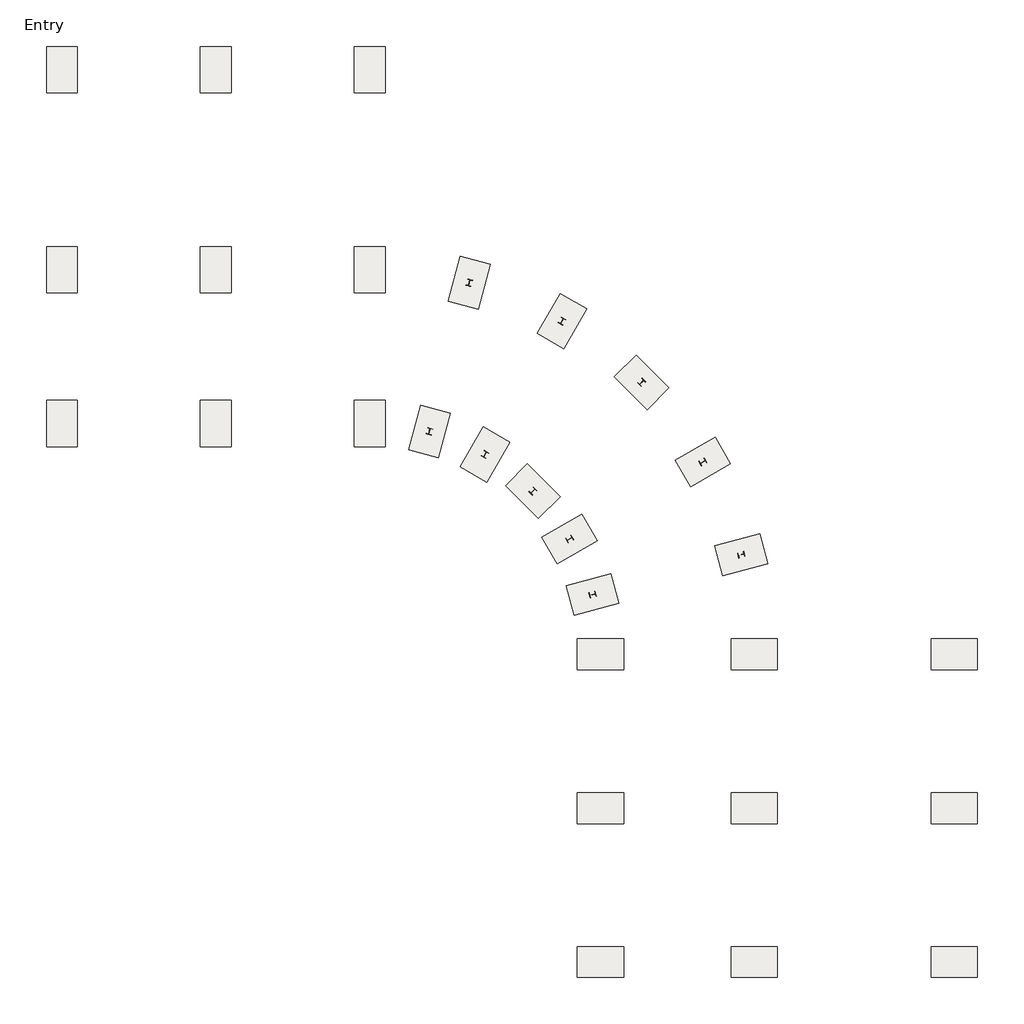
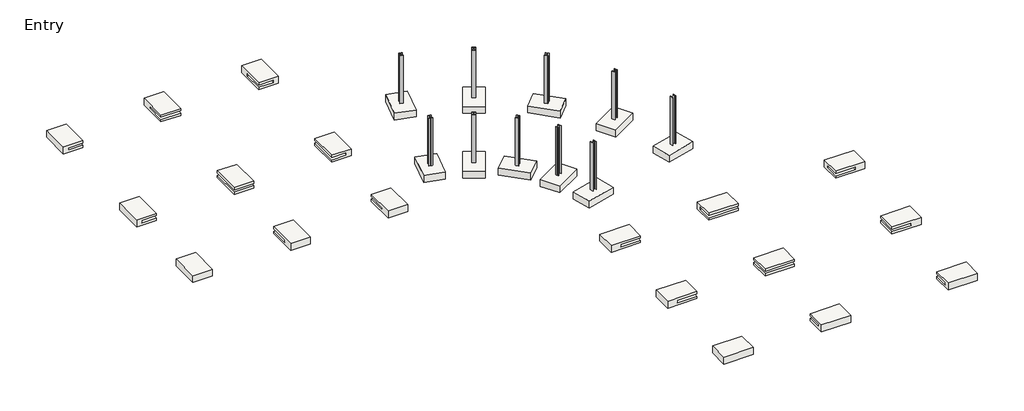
# One storey: 28 slabs, 10 columns.
"""IFC4 building model written with IfcOpenShell, lengths in millimetres."""

import ifcopenshell
import ifcopenshell.guid

model = None  # the IFC model being written
_history = None  # IfcOwnerHistory: only IFC2X3 demands one
_inside = {}  # id of a spatial element -> (the spatial element, [elements in it])
_under = {}  # id of a project, library or spatial element -> (it, [spatial elements below it])
_declared = {}  # id of a project -> (the project, [libraries it declares])
_typed = {}  # id of a type object -> (the type object, [elements of that type])
_made_of = {}  # id of a material, layer set ... -> (it, [elements and type objects made of it])


def new_model(schema):
    """Start an empty IFC model of exactly this schema.

    Asked for "IFC4X3", IfcOpenShell would pick the latest addendum, in which some entities
    have other attributes; the version numbers below select the first issue.
    IFC2X3 requires an IfcOwnerHistory on every rooted entity: one is made here for all.
    """
    global model, _history
    if schema == "IFC4X3":
        model = ifcopenshell.file(schema_version=(4, 3, 0, 0))
    else:
        model = ifcopenshell.file(schema=schema)
    _inside.clear()
    _under.clear()
    _declared.clear()
    _typed.clear()
    _made_of.clear()
    _history = None
    if model.schema == "IFC2X3":
        org = make("IfcOrganization", Name="unknown")
        user = make(
            "IfcPersonAndOrganization",
            ThePerson=make("IfcPerson", FamilyName="unknown"),
            TheOrganization=org,
        )
        app = make(
            "IfcApplication",
            ApplicationDeveloper=org,
            Version="unknown",
            ApplicationFullName="unknown",
            ApplicationIdentifier="unknown",
        )
        _history = make(
            "IfcOwnerHistory",
            OwningUser=user,
            OwningApplication=app,
            ChangeAction="ADDED",
            CreationDate=0,
        )
    return model


def make(cls, **values):
    """One entity of the class cls with the attributes given. An attribute that is None is left unset."""
    return model.create_entity(
        cls, **{name: value for name, value in values.items() if value is not None}
    )


def rooted(cls, **values):
    """An entity with a GlobalId (a new one), such as an element, a storey or a relation."""
    return make(cls, GlobalId=ifcopenshell.guid.new(), OwnerHistory=_history, **values)


def si_unit(unit_type, name, prefix=None):
    """IfcSIUnit, for example si_unit("LENGTHUNIT", "METRE", prefix="MILLI")."""
    return make("IfcSIUnit", UnitType=unit_type, Prefix=prefix, Name=name)


def assignment(units):
    """IfcUnitAssignment: the units of a project."""
    return None if units is None else make("IfcUnitAssignment", Units=units)


def point(xyz):
    """IfcCartesianPoint."""
    return None if xyz is None else make("IfcCartesianPoint", Coordinates=xyz)


def direction(xyz):
    """IfcDirection."""
    return None if xyz is None else make("IfcDirection", DirectionRatios=xyz)


def frame(location, z_axis=None, x_axis=None):
    """IfcAxis2Placement3D, a coordinate frame: its origin and axes. An axis left out is left unset."""
    return make(
        "IfcAxis2Placement3D",
        Location=point(location),
        Axis=direction(z_axis),
        RefDirection=direction(x_axis),
    )


def frame_2d(location, x_axis=None):
    """IfcAxis2Placement2D, a coordinate frame in the plane: its origin and x axis."""
    return make(
        "IfcAxis2Placement2D", Location=point(location), RefDirection=direction(x_axis)
    )


def origin():
    """The frame at (0, 0, 0) with its axes left unset."""
    return frame((0.0, 0.0, 0.0))


def origin_with_axes():
    """The frame at (0, 0, 0) with the z axis (0, 0, 1) and the x axis (1, 0, 0) written out."""
    return frame((0.0, 0.0, 0.0), z_axis=(0.0, 0.0, 1.0), x_axis=(1.0, 0.0, 0.0))


def place(relative_to, where):
    """IfcLocalPlacement: puts the frame where relative to a parent placement (None: the world)."""
    return make(
        "IfcLocalPlacement", PlacementRelTo=relative_to, RelativePlacement=where
    )


def context(
    kind, dimensions, precision=None, world=None, true_north=None, identifier=None
):
    """IfcGeometricRepresentationContext, for example the 3D "Model" context."""
    return make(
        "IfcGeometricRepresentationContext",
        ContextIdentifier=identifier,
        ContextType=kind,
        CoordinateSpaceDimension=dimensions,
        Precision=precision,
        WorldCoordinateSystem=world,
        TrueNorth=true_north,
    )


def project(units=None, contexts=None):
    """IfcProject with its units and contexts."""
    return rooted(
        "IfcProject",
        Name="project",
        RepresentationContexts=contexts,
        UnitsInContext=assignment(units),
    )


def spatial(cls, under=None, at=None, **own):
    """A site, building, storey or space (cls), placed at a placement, below another one or the project."""
    s = rooted(cls, ObjectPlacement=at, **own)
    if under is not None:
        _under.setdefault(under.id(), (under, []))[1].append(s)
    return s


def polyline(points):
    """IfcPolyline through the points."""
    return make("IfcPolyline", Points=[point(p) for p in points])


def circle_curve(where, radius):
    """IfcCircle in the frame where."""
    return make("IfcCircle", Position=where, Radius=radius)


def trimmed(basis, trim1, trim2, sense, master):
    """IfcTrimmedCurve: the piece of a basis curve between two trims."""
    return make(
        "IfcTrimmedCurve",
        BasisCurve=basis,
        Trim1=trim1,
        Trim2=trim2,
        SenseAgreement=sense,
        MasterRepresentation=master,
    )


def segment(curve, same_sense, transition):
    """IfcCompositeCurveSegment."""
    return make(
        "IfcCompositeCurveSegment",
        Transition=transition,
        SameSense=same_sense,
        ParentCurve=curve,
    )


def composite_curve(segments, self_intersect=None):
    """IfcCompositeCurve: segments joined end to end."""
    return make("IfcCompositeCurve", Segments=segments, SelfIntersect=self_intersect)


def outline(outer, holes=None, kind="AREA"):
    """IfcArbitraryClosedProfileDef: a profile drawn as a closed curve; with holes, ...WithVoids."""
    if holes is None:
        return make("IfcArbitraryClosedProfileDef", ProfileType=kind, OuterCurve=outer)
    return make(
        "IfcArbitraryProfileDefWithVoids",
        ProfileType=kind,
        OuterCurve=outer,
        InnerCurves=holes,
    )


def extrude(swept, where, along, depth):
    """IfcExtrudedAreaSolid: the profile swept, set in the frame where, extruded along a direction by depth."""
    return make(
        "IfcExtrudedAreaSolid",
        SweptArea=swept,
        Position=where,
        ExtrudedDirection=direction(along),
        Depth=depth,
    )


def faces_of(points, faces, orient=None, outer=None):
    """IfcFace entities. A face is a list of loops; a loop is a list of indices into points, from 0.

    orient and outer hold one flag for each loop. By default every Orientation is true, the
    first loop of a face is its IfcFaceOuterBound and the others are IfcFaceBound.
    """
    made = []
    for i, loops in enumerate(faces):
        bounds = []
        for j, loop in enumerate(loops):
            is_outer = j == 0 if outer is None else outer[i][j]
            bounds.append(
                make(
                    "IfcFaceOuterBound" if is_outer else "IfcFaceBound",
                    Bound=make("IfcPolyLoop", Polygon=[points[k] for k in loop]),
                    Orientation=True if orient is None else orient[i][j],
                )
            )
        made.append(make("IfcFace", Bounds=bounds))
    return made


def faceted_brep(points, faces, orient=None, outer=None, voids=None):
    """IfcFacetedBrep: a solid bounded by flat faces; with voids (closed shells), ...WithVoids."""
    shared = [point(p) for p in points]
    hull = make("IfcClosedShell", CfsFaces=faces_of(shared, faces, orient, outer))
    if voids is None:
        return make("IfcFacetedBrep", Outer=hull)
    return make(
        "IfcFacetedBrepWithVoids",
        Outer=hull,
        Voids=[
            make(cls, CfsFaces=faces_of(shared, fs, o, b)) for cls, fs, o, b in voids
        ],
    )


def shape(context_of_items, identifier, shape_type, items):
    """IfcShapeRepresentation: the items that make up one representation, for example the "Body"."""
    return make(
        "IfcShapeRepresentation",
        ContextOfItems=context_of_items,
        RepresentationIdentifier=identifier,
        RepresentationType=shape_type,
        Items=items,
    )


def source(mapping_origin, context_of_items, identifier, shape_type, items):
    """IfcRepresentationMap: a shape defined once, which mapped items show again and again."""
    return make(
        "IfcRepresentationMap",
        MappingOrigin=mapping_origin,
        MappedRepresentation=shape(context_of_items, identifier, shape_type, items),
    )


def transform(
    local_origin,
    x_axis=None,
    y_axis=None,
    z_axis=None,
    scale=None,
    scale2=None,
    scale3=None,
    uniform=True,
):
    """IfcCartesianTransformationOperator3D, or its non-uniform kind. x_axis, y_axis, z_axis: its Axis1, 2, 3."""
    if uniform:
        return make(
            "IfcCartesianTransformationOperator3D",
            Axis1=direction(x_axis),
            Axis2=direction(y_axis),
            LocalOrigin=point(local_origin),
            Scale=scale,
            Axis3=direction(z_axis),
        )
    return make(
        "IfcCartesianTransformationOperator3DnonUniform",
        Axis1=direction(x_axis),
        Axis2=direction(y_axis),
        LocalOrigin=point(local_origin),
        Scale=scale,
        Axis3=direction(z_axis),
        Scale2=scale2,
        Scale3=scale3,
    )


def mapped(mapping_source, mapping_target):
    """IfcMappedItem: shows the shape of a source again, moved by a transform."""
    return make(
        "IfcMappedItem", MappingSource=mapping_source, MappingTarget=mapping_target
    )


def made_of(thing, what):
    """Note that an element or type object is made of a material, layer set ...; save() writes the relation."""
    if what is not None:
        _made_of.setdefault(what.id(), (what, []))[1].append(thing)
    return thing


def element(
    cls,
    number,
    at=None,
    inside=None,
    cuts=None,
    type_object=None,
    material=None,
    context=None,
    identifier="Body",
    shape_type=None,
    held_by="IfcProductDefinitionShape",
    body=None,
    shapes=None,
    **own,
):
    """One element of the class cls, such as IfcWall. Its Tag is "e" and its number.

    at: its placement. inside: the storey or other place that contains it. cuts: it is an
    opening in that element (IfcRelVoidsElement). A single representation is given by context,
    identifier, shape_type and body (its items); several are given by shapes. held_by: the class
    of the entity that holds the representations. save() writes the other relations.
    """
    e = rooted(cls, Tag="e%d" % number, ObjectPlacement=at, **own)
    if body is not None:
        shapes = [shape(context, identifier, shape_type, body)]
    if shapes is not None:
        e.Representation = make(held_by, Representations=shapes)
    if inside is not None:
        _inside.setdefault(inside.id(), (inside, []))[1].append(e)
    if cuts is not None:
        rooted(
            "IfcRelVoidsElement", RelatingBuildingElement=cuts, RelatedOpeningElement=e
        )
    if type_object is not None:
        _typed.setdefault(type_object.id(), (type_object, []))[1].append(e)
    return made_of(e, material)


def aggregate(whole, parts):
    """IfcRelAggregates: a whole, such as a stair, and the parts it consists of."""
    return rooted("IfcRelAggregates", RelatingObject=whole, RelatedObjects=parts)


def save(model, path):
    """Write the relations noted so far, then the file.

    IfcRelAggregates (storeys below a building ...), IfcRelContainedInSpatialStructure (elements
    in a storey), IfcRelDefinesByType, IfcRelAssociatesMaterial and IfcRelDeclares: one each for
    every whole, place, type object, material and project.
    """
    for whole, parts in _under.values():
        aggregate(whole, parts)
    for where, things in _inside.values():
        rooted(
            "IfcRelContainedInSpatialStructure",
            RelatedElements=things,
            RelatingStructure=where,
        )
    for kind, things in _typed.values():
        rooted("IfcRelDefinesByType", RelatedObjects=things, RelatingType=kind)
    for what, things in _made_of.values():
        rooted("IfcRelAssociatesMaterial", RelatedObjects=things, RelatingMaterial=what)
    for by, libraries in _declared.values():
        rooted("IfcRelDeclares", RelatingContext=by, RelatedDefinitions=libraries)
    model.write(path)


def w_shapes_column_w10x33_aadc5645(model_context):
    return source(origin(), model_context, "Body", "SweptSolid", [
        extrude(outline(composite_curve([segment(polyline([(101.092, 123.571), (101.092, 112.522), (16.383, 112.522)]), True, "CONTINUOUS"), segment(trimmed(circle_curve(frame_2d((16.383, 99.822)), 12.7), [point((16.383, 112.522))], [point((3.683, 99.822))], True, "CARTESIAN"), True, "CONTINUOUS"), segment(polyline([(3.683, 99.822), (3.683, -99.822)]), True, "CONTINUOUS"), segment(trimmed(circle_curve(frame_2d((16.383, -99.822)), 12.7), [point((3.683, -99.822))], [point((16.383, -112.522))], True, "CARTESIAN"), True, "CONTINUOUS"), segment(polyline([(16.383, -112.522), (101.092, -112.522), (101.092, -123.571), (-101.092, -123.571), (-101.092, -112.522), (-16.383, -112.522)]), True, "CONTINUOUS"), segment(trimmed(circle_curve(frame_2d((-16.383, -99.822)), 12.7), [point((-16.383, -112.522))], [point((-3.683, -99.822))], True, "CARTESIAN"), True, "CONTINUOUS"), segment(polyline([(-3.683, -99.822), (-3.683, 99.822)]), True, "CONTINUOUS"), segment(trimmed(circle_curve(frame_2d((-16.383, 99.822)), 12.7), [point((-3.683, 99.822))], [point((-16.383, 112.522))], True, "CARTESIAN"), True, "CONTINUOUS"), segment(polyline([(-16.383, 112.522), (-101.092, 112.522), (-101.092, 123.571), (101.092, 123.571)]), True, "CONTINUOUS")], self_intersect=False)), origin_with_axes(), (0.0, 0.0, 1.0), 3175.0),
    ])


def slab_5ba74754(model_context):
    return source(origin(), model_context, "Body", "SweptSolid", [
        extrude(outline(polyline([(609.6, 914.4), (609.6, -914.4), (-609.6, -914.4), (-609.6, 914.4), (609.6, 914.4)])), frame((0.0, 0.0, -457.2), z_axis=(0.0, 0.0, 1.0), x_axis=(1.0, 0.0, 0.0)), (0.0, 0.0, 1.0), 457.2),
    ])


model = new_model("IFC4")

# Units and contexts
model_context = context("Model", 3, world=origin())
ifc_project = project(units=[si_unit("LENGTHUNIT", "METRE", prefix="MILLI")], contexts=[model_context])

# Site, building, storey
site = spatial("IfcSite", under=ifc_project)
building = spatial("IfcBuilding", under=site)
storey = spatial("IfcBuildingStorey", under=building, Name="Entry", Elevation=0.0)

# Columns
placement = place(None, origin())
w_shapes_column_w10x33_shape = w_shapes_column_w10x33_aadc5645(model_context)
element("IfcColumn", 1, ObjectType="W Shapes-Column : W10X33", at=placement, inside=storey, context=model_context, shape_type="MappedRepresentation", body=[
    mapped(w_shapes_column_w10x33_shape, transform((-19803.9566554, -8923.9137739, 0.0), x_axis=(-0.2588190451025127, 0.9659258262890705, 0.0), y_axis=(-0.9659258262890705, -0.2588190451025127, 0.0), z_axis=(0.0, 0.0, 1.0))),
])
element("IfcColumn", 2, ObjectType="W Shapes-Column : W10X33", at=placement, inside=storey, context=model_context, shape_type="MappedRepresentation", body=[
    mapped(w_shapes_column_w10x33_shape, transform((-13915.6728183, -7346.1528749, 0.0), x_axis=(-0.2588190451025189, 0.9659258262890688, 0.0), y_axis=(-0.9659258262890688, -0.2588190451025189, 0.0), z_axis=(0.0, 0.0, 1.0))),
])
element("IfcColumn", 3, ObjectType="W Shapes-Column : W10X33", at=placement, inside=storey, context=model_context, shape_type="MappedRepresentation", body=[
    mapped(w_shapes_column_w10x33_shape, transform((-20717.4461188, -6718.5551223, 0.0), x_axis=(-0.4999999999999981, 0.8660254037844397, 0.0), y_axis=(-0.8660254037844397, -0.4999999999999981, 0.0), z_axis=(0.0, 0.0, 1.0))),
])
element("IfcColumn", 4, ObjectType="W Shapes-Column : W10X33", at=placement, inside=storey, context=model_context, shape_type="MappedRepresentation", body=[
    mapped(w_shapes_column_w10x33_shape, transform((-15438.1552573, -3670.5551223, 0.0), x_axis=(-0.4999999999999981, 0.8660254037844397, 0.0), y_axis=(-0.8660254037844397, -0.4999999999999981, 0.0), z_axis=(0.0, 0.0, 1.0))),
])
element("IfcColumn", 5, ObjectType="W Shapes-Column : W10X33", at=placement, inside=storey, context=model_context, shape_type="MappedRepresentation", body=[
    mapped(w_shapes_column_w10x33_shape, transform((-22170.5980038, -4824.7707151, 0.0), x_axis=(0.7071067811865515, -0.7071067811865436, 0.0), y_axis=(0.7071067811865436, 0.7071067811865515, 0.0), z_axis=(0.0, 0.0, 1.0))),
])
element("IfcColumn", 6, ObjectType="W Shapes-Column : W10X33", at=placement, inside=storey, context=model_context, shape_type="MappedRepresentation", body=[
    mapped(w_shapes_column_w10x33_shape, transform((-17860.0750657, -514.247777, 0.0), x_axis=(0.7071067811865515, -0.7071067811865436, 0.0), y_axis=(0.7071067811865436, 0.7071067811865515, 0.0), z_axis=(0.0, 0.0, 1.0))),
])
element("IfcColumn", 7, ObjectType="W Shapes-Column : W10X33", at=placement, inside=storey, context=model_context, shape_type="MappedRepresentation", body=[
    mapped(w_shapes_column_w10x33_shape, transform((-24064.382411, -3371.6188301, 0.0), x_axis=(0.8660254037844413, -0.49999999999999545, 0.0), y_axis=(0.49999999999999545, 0.8660254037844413, 0.0), z_axis=(0.0, 0.0, 1.0))),
])
element("IfcColumn", 8, ObjectType="W Shapes-Column : W10X33", at=placement, inside=storey, context=model_context, shape_type="MappedRepresentation", body=[
    mapped(w_shapes_column_w10x33_shape, transform((-21016.382411, 1907.6720314, 0.0), x_axis=(0.8660254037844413, -0.49999999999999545, 0.0), y_axis=(0.49999999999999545, 0.8660254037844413, 0.0), z_axis=(0.0, 0.0, 1.0))),
])
element("IfcColumn", 9, ObjectType="W Shapes-Column : W10X33", at=placement, inside=storey, context=model_context, shape_type="MappedRepresentation", body=[
    mapped(w_shapes_column_w10x33_shape, transform((-26269.7410626, -2458.1293667, 0.0), x_axis=(0.9659258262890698, -0.25881904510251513, 0.0), y_axis=(0.25881904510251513, 0.9659258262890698, 0.0), z_axis=(0.0, 0.0, 1.0))),
])
element("IfcColumn", 10, ObjectType="W Shapes-Column : W10X33", at=placement, inside=storey, context=model_context, shape_type="MappedRepresentation", body=[
    mapped(w_shapes_column_w10x33_shape, transform((-24691.9801636, 3430.1544704, 0.0), x_axis=(0.9659258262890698, -0.25881904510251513, 0.0), y_axis=(0.25881904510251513, 0.9659258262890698, 0.0), z_axis=(0.0, 0.0, 1.0))),
])

# Slabs
element("IfcSlab", 11, ObjectType="Footing-Rectangular : 72\" x 48\" x 18\"", at=placement, inside=storey, context=model_context, shape_type="Brep", body=[
    faceted_brep([(-29245.982411, 10959.8448777, -1676.4), (-28026.782411, 10959.8448777, -1676.4), (-28026.782411, 12788.6448777, -1676.4), (-29245.982411, 12788.6448777, -1676.4), (-29245.982411, 10959.8448777, -2133.6), (-29245.982411, 12788.6448777, -2133.6), (-28026.782411, 12788.6448777, -2133.6), (-28026.782411, 10959.8448777, -2133.6), (-29245.982411, 10959.8448777, -1828.8), (-28331.582411, 10959.8448777, -1828.8), (-28331.582411, 10959.8448777, -1981.2), (-29245.982411, 10959.8448777, -1981.2), (-29245.982411, 12179.0448777, -1981.2), (-29245.982411, 12179.0448777, -1828.8), (-28331.582411, 12179.0448777, -1981.2), (-28331.582411, 12179.0448777, -1828.8)], [[[0, 1, 2, 3]], [[4, 5, 6, 7]], [[1, 0, 8, 9, 10, 11, 4, 7]], [[2, 1, 7, 6]], [[3, 2, 6, 5]], [[0, 3, 5, 4, 11, 12, 13, 8]], [[14, 12, 11, 10]], [[15, 9, 8, 13]], [[15, 14, 10, 9]], [[14, 15, 13, 12]]]),
])
element("IfcSlab", 12, ObjectType="Footing-Rectangular : 72\" x 48\" x 18\"", at=placement, inside=storey, context=model_context, shape_type="SweptSolid", body=[
    extrude(outline(polyline([(10959.8448777, -1676.4), (12788.6448777, -1676.4), (12788.6448777, -2133.6), (10959.8448777, -2133.6), (10959.8448777, -1981.2), (12179.0448777, -1981.2), (12179.0448777, -1828.8), (10959.8448777, -1828.8), (10959.8448777, -1676.4)])), frame((-35341.982411, 0.0, 0.0), z_axis=(1.0, 0.0, 0.0), x_axis=(0.0, 1.0, 0.0)), (0.0, 0.0, 1.0), 1219.2),
])
element("IfcSlab", 13, ObjectType="Footing-Rectangular : 72\" x 48\" x 18\"", at=placement, inside=storey, context=model_context, shape_type="Brep", body=[
    faceted_brep([(-41437.982411, 10959.8448777, -1676.4), (-40218.782411, 10959.8448777, -1676.4), (-40218.782411, 12788.6448777, -1676.4), (-41437.982411, 12788.6448777, -1676.4), (-41437.982411, 10959.8448777, -2133.6), (-41437.982411, 12788.6448777, -2133.6), (-40218.782411, 12788.6448777, -2133.6), (-40218.782411, 10959.8448777, -2133.6), (-40218.782411, 10959.8448777, -1981.2), (-41133.182411, 10959.8448777, -1981.2), (-41133.182411, 10959.8448777, -1828.8), (-40218.782411, 10959.8448777, -1828.8), (-40218.782411, 12179.0448777, -1828.8), (-40218.782411, 12179.0448777, -1981.2), (-41133.182411, 12179.0448777, -1981.2), (-41133.182411, 12179.0448777, -1828.8)], [[[0, 1, 2, 3]], [[4, 5, 6, 7]], [[1, 0, 4, 7, 8, 9, 10, 11]], [[2, 1, 11, 12, 13, 8, 7, 6]], [[3, 2, 6, 5]], [[0, 3, 5, 4]], [[13, 14, 9, 8]], [[10, 15, 12, 11]], [[14, 15, 10, 9]], [[15, 14, 13, 12]]]),
])
element("IfcSlab", 14, ObjectType="Footing-Rectangular : 72\" x 48\" x 18\"", at=placement, inside=storey, context=model_context, shape_type="Brep", body=[
    faceted_brep([(-28026.782411, -1232.1551223, -1676.4), (-29245.982411, -1232.1551223, -1676.4), (-29245.982411, -3060.9551223, -1676.4), (-28026.782411, -3060.9551223, -1676.4), (-28026.782411, -1232.1551223, -2133.6), (-28026.782411, -3060.9551223, -2133.6), (-29245.982411, -3060.9551223, -2133.6), (-29245.982411, -1232.1551223, -2133.6), (-29245.982411, -1232.1551223, -1981.2), (-28331.582411, -1232.1551223, -1981.2), (-28331.582411, -1232.1551223, -1828.8), (-29245.982411, -1232.1551223, -1828.8), (-29245.982411, -2451.3551223, -1828.8), (-29245.982411, -2451.3551223, -1981.2), (-28331.582411, -2451.3551223, -1981.2), (-28331.582411, -2451.3551223, -1828.8)], [[[0, 1, 2, 3]], [[4, 5, 6, 7]], [[1, 0, 4, 7, 8, 9, 10, 11]], [[2, 1, 11, 12, 13, 8, 7, 6]], [[3, 2, 6, 5]], [[0, 3, 5, 4]], [[13, 14, 9, 8]], [[10, 15, 12, 11]], [[14, 15, 10, 9]], [[15, 14, 13, 12]]]),
])
element("IfcSlab", 15, ObjectType="Footing-Rectangular : 72\" x 48\" x 18\"", at=placement, inside=storey, context=model_context, shape_type="SweptSolid", body=[
    extrude(outline(polyline([(-1676.4, -28026.782411), (-1676.4, -29245.982411), (-1828.8, -29245.982411), (-1828.8, -28331.582411), (-1981.2, -28331.582411), (-1981.2, -29245.982411), (-2133.6, -29245.982411), (-2133.6, -28026.782411), (-1676.4, -28026.782411)])), frame((0.0, 3035.0448777, 0.0), z_axis=(0.0, 1.0, 0.0), x_axis=(0.0, 0.0, 1.0)), (0.0, 0.0, 1.0), 1828.8),
])
element("IfcSlab", 16, ObjectType="Footing-Rectangular : 72\" x 48\" x 18\"", at=placement, inside=storey, context=model_context, shape_type="SweptSolid", body=[
    extrude(outline(polyline([(-3060.9551223, -1676.4), (-1232.1551223, -1676.4), (-1232.1551223, -1828.8), (-2451.3551223, -1828.8), (-2451.3551223, -1981.2), (-1232.1551223, -1981.2), (-1232.1551223, -2133.6), (-3060.9551223, -2133.6), (-3060.9551223, -1676.4)])), frame((-35341.982411, 0.0, 0.0), z_axis=(1.0, 0.0, 0.0), x_axis=(0.0, 1.0, 0.0)), (0.0, 0.0, 1.0), 1219.2),
])
element("IfcSlab", 17, ObjectType="Footing-Rectangular : 72\" x 48\" x 18\"", at=placement, inside=storey, context=model_context, shape_type="Brep", body=[
    faceted_brep([(-41437.982411, -3060.9551223, -1676.4), (-40218.782411, -3060.9551223, -1676.4), (-40218.782411, -1232.1551223, -1676.4), (-41437.982411, -1232.1551223, -1676.4), (-41437.982411, -3060.9551223, -2133.6), (-41437.982411, -1232.1551223, -2133.6), (-40218.782411, -1232.1551223, -2133.6), (-40218.782411, -3060.9551223, -2133.6), (-40218.782411, -1232.1551223, -1981.2), (-40218.782411, -2451.3551223, -1981.2), (-40218.782411, -2451.3551223, -1828.8), (-40218.782411, -1232.1551223, -1828.8), (-41133.182411, -1232.1551223, -1828.8), (-41133.182411, -1232.1551223, -1981.2), (-41133.182411, -2451.3551223, -1981.2), (-41133.182411, -2451.3551223, -1828.8)], [[[0, 1, 2, 3]], [[4, 5, 6, 7]], [[1, 0, 4, 7]], [[2, 1, 7, 6, 8, 9, 10, 11]], [[3, 2, 11, 12, 13, 8, 6, 5]], [[0, 3, 5, 4]], [[13, 14, 9, 8]], [[10, 15, 12, 11]], [[14, 15, 10, 9]], [[15, 14, 13, 12]]]),
])
element("IfcSlab", 18, ObjectType="Footing-Rectangular : 72\" x 48\" x 18\"", at=placement, inside=storey, context=model_context, shape_type="SweptSolid", body=[
    extrude(outline(polyline([(-34122.782411, 3035.0448777), (-35341.982411, 3035.0448777), (-35341.982411, 4863.8448777), (-34122.782411, 4863.8448777), (-34122.782411, 3035.0448777)])), frame((0.0, 0.0, -1828.8), z_axis=(0.0, 0.0, 1.0), x_axis=(1.0, 0.0, 0.0)), (0.0, 0.0, 1.0), 152.4),
    extrude(outline(polyline([(-35341.982411, 3035.0448777), (-35341.982411, 4863.8448777), (-34122.782411, 4863.8448777), (-34122.782411, 3035.0448777), (-35341.982411, 3035.0448777)])), frame((0.0, 0.0, -2133.6), z_axis=(0.0, 0.0, 1.0), x_axis=(1.0, 0.0, 0.0)), (0.0, 0.0, 1.0), 152.4),
])
element("IfcSlab", 19, ObjectType="Footing-Rectangular : 72\" x 48\" x 18\"", at=placement, inside=storey, context=model_context, shape_type="SweptSolid", body=[
    extrude(outline(polyline([(-1676.4, -40218.782411), (-1676.4, -41437.982411), (-2133.6, -41437.982411), (-2133.6, -40218.782411), (-1981.2, -40218.782411), (-1981.2, -41133.182411), (-1828.8, -41133.182411), (-1828.8, -40218.782411), (-1676.4, -40218.782411)])), frame((0.0, 3035.0448777, 0.0), z_axis=(0.0, 1.0, 0.0), x_axis=(0.0, 0.0, 1.0)), (0.0, 0.0, 1.0), 1828.8),
])
element("IfcSlab", 20, ObjectType="Footing-Rectangular : 72\" x 48\" x 18\"", at=placement, inside=storey, context=model_context, shape_type="Brep", body=[
    faceted_brep([(-6385.982411, -10680.9551223, -1676.4), (-6385.982411, -11900.1551223, -1676.4), (-4557.182411, -11900.1551223, -1676.4), (-4557.182411, -10680.9551223, -1676.4), (-4557.182411, -11900.1551223, -2133.6), (-6385.982411, -11900.1551223, -2133.6), (-6385.982411, -10680.9551223, -2133.6), (-4557.182411, -10680.9551223, -2133.6), (-6385.982411, -11900.1551223, -1981.2), (-6385.982411, -10985.7551223, -1981.2), (-6385.982411, -10985.7551223, -1828.8), (-6385.982411, -11900.1551223, -1828.8), (-5166.782411, -11900.1551223, -1828.8), (-5166.782411, -11900.1551223, -1981.2), (-5166.782411, -10985.7551223, -1981.2), (-5166.782411, -10985.7551223, -1828.8)], [[[0, 1, 2, 3]], [[4, 5, 6, 7]], [[1, 0, 6, 5, 8, 9, 10, 11]], [[0, 3, 7, 6]], [[3, 2, 4, 7]], [[2, 1, 11, 12, 13, 8, 5, 4]], [[14, 9, 8, 13]], [[15, 12, 11, 10]], [[14, 15, 10, 9]], [[15, 14, 13, 12]]]),
])
element("IfcSlab", 21, ObjectType="Footing-Rectangular : 72\" x 48\" x 18\"", at=placement, inside=storey, context=model_context, shape_type="SweptSolid", body=[
    extrude(outline(polyline([(-1676.4, -4557.182411), (-1676.4, -6385.982411), (-1828.8, -6385.982411), (-1828.8, -5166.782411), (-1981.2, -5166.782411), (-1981.2, -6385.982411), (-2133.6, -6385.982411), (-2133.6, -4557.182411), (-1676.4, -4557.182411)])), frame((0.0, -17996.1551223, 0.0), z_axis=(0.0, 1.0, 0.0), x_axis=(0.0, 0.0, 1.0)), (0.0, 0.0, 1.0), 1219.2),
])
element("IfcSlab", 22, ObjectType="Footing-Rectangular : 72\" x 48\" x 18\"", at=placement, inside=storey, context=model_context, shape_type="Brep", body=[
    faceted_brep([(-6385.982411, -22872.9551223, -1676.4), (-6385.982411, -24092.1551223, -1676.4), (-4557.182411, -24092.1551223, -1676.4), (-4557.182411, -22872.9551223, -1676.4), (-4557.182411, -24092.1551223, -2133.6), (-6385.982411, -24092.1551223, -2133.6), (-6385.982411, -22872.9551223, -2133.6), (-4557.182411, -22872.9551223, -2133.6), (-6385.982411, -22872.9551223, -1828.8), (-6385.982411, -23787.3551223, -1828.8), (-6385.982411, -23787.3551223, -1981.2), (-6385.982411, -22872.9551223, -1981.2), (-5166.782411, -22872.9551223, -1981.2), (-5166.782411, -22872.9551223, -1828.8), (-5166.782411, -23787.3551223, -1981.2), (-5166.782411, -23787.3551223, -1828.8)], [[[0, 1, 2, 3]], [[4, 5, 6, 7]], [[1, 0, 8, 9, 10, 11, 6, 5]], [[0, 3, 7, 6, 11, 12, 13, 8]], [[3, 2, 4, 7]], [[2, 1, 5, 4]], [[10, 14, 12, 11]], [[13, 15, 9, 8]], [[15, 14, 10, 9]], [[14, 15, 13, 12]]]),
])
element("IfcSlab", 23, ObjectType="Footing-Rectangular : 72\" x 48\" x 18\"", at=placement, inside=storey, context=model_context, shape_type="Brep", body=[
    faceted_brep([(-18577.982411, -11900.1551223, -1676.4), (-18577.982411, -10680.9551223, -1676.4), (-20406.782411, -10680.9551223, -1676.4), (-20406.782411, -11900.1551223, -1676.4), (-20406.782411, -10680.9551223, -2133.6), (-18577.982411, -10680.9551223, -2133.6), (-18577.982411, -11900.1551223, -2133.6), (-20406.782411, -11900.1551223, -2133.6), (-18577.982411, -11900.1551223, -1828.8), (-18577.982411, -10985.7551223, -1828.8), (-18577.982411, -10985.7551223, -1981.2), (-18577.982411, -11900.1551223, -1981.2), (-19797.182411, -11900.1551223, -1981.2), (-19797.182411, -11900.1551223, -1828.8), (-19797.182411, -10985.7551223, -1981.2), (-19797.182411, -10985.7551223, -1828.8)], [[[0, 1, 2, 3]], [[4, 5, 6, 7]], [[1, 0, 8, 9, 10, 11, 6, 5]], [[0, 3, 7, 6, 11, 12, 13, 8]], [[3, 2, 4, 7]], [[2, 1, 5, 4]], [[10, 14, 12, 11]], [[13, 15, 9, 8]], [[15, 14, 10, 9]], [[14, 15, 13, 12]]]),
])
element("IfcSlab", 24, ObjectType="Footing-Rectangular : 72\" x 48\" x 18\"", at=placement, inside=storey, context=model_context, shape_type="SweptSolid", body=[
    extrude(outline(polyline([(-11900.1551223, -1676.4), (-10680.9551223, -1676.4), (-10680.9551223, -2133.6), (-11900.1551223, -2133.6), (-11900.1551223, -1981.2), (-10985.7551223, -1981.2), (-10985.7551223, -1828.8), (-11900.1551223, -1828.8), (-11900.1551223, -1676.4)])), frame((-14310.782411, 0.0, 0.0), z_axis=(1.0, 0.0, 0.0), x_axis=(0.0, 1.0, 0.0)), (0.0, 0.0, 1.0), 1828.8),
])
element("IfcSlab", 25, ObjectType="Footing-Rectangular : 72\" x 48\" x 18\"", at=placement, inside=storey, context=model_context, shape_type="SweptSolid", body=[
    extrude(outline(polyline([(-1676.4, -18577.982411), (-1676.4, -20406.782411), (-2133.6, -20406.782411), (-2133.6, -18577.982411), (-1981.2, -18577.982411), (-1981.2, -19797.182411), (-1828.8, -19797.182411), (-1828.8, -18577.982411), (-1676.4, -18577.982411)])), frame((0.0, -17996.1551223, 0.0), z_axis=(0.0, 1.0, 0.0), x_axis=(0.0, 0.0, 1.0)), (0.0, 0.0, 1.0), 1219.2),
])
element("IfcSlab", 26, ObjectType="Footing-Rectangular : 72\" x 48\" x 18\"", at=placement, inside=storey, context=model_context, shape_type="Brep", body=[
    faceted_brep([(-20406.782411, -22872.9551223, -1676.4), (-20406.782411, -24092.1551223, -1676.4), (-18577.982411, -24092.1551223, -1676.4), (-18577.982411, -22872.9551223, -1676.4), (-18577.982411, -24092.1551223, -2133.6), (-20406.782411, -24092.1551223, -2133.6), (-20406.782411, -22872.9551223, -2133.6), (-18577.982411, -22872.9551223, -2133.6), (-18577.982411, -22872.9551223, -1828.8), (-19797.182411, -22872.9551223, -1828.8), (-19797.182411, -22872.9551223, -1981.2), (-18577.982411, -22872.9551223, -1981.2), (-18577.982411, -23787.3551223, -1981.2), (-18577.982411, -23787.3551223, -1828.8), (-19797.182411, -23787.3551223, -1981.2), (-19797.182411, -23787.3551223, -1828.8)], [[[0, 1, 2, 3]], [[4, 5, 6, 7]], [[1, 0, 6, 5]], [[0, 3, 8, 9, 10, 11, 7, 6]], [[3, 2, 4, 7, 11, 12, 13, 8]], [[2, 1, 5, 4]], [[10, 14, 12, 11]], [[13, 15, 9, 8]], [[15, 14, 10, 9]], [[14, 15, 13, 12]]]),
])
element("IfcSlab", 27, ObjectType="Footing-Rectangular : 72\" x 48\" x 18\"", at=placement, inside=storey, context=model_context, shape_type="SweptSolid", body=[
    extrude(outline(polyline([(-14310.782411, -17996.1551223), (-14310.782411, -16776.9551223), (-12481.982411, -16776.9551223), (-12481.982411, -17996.1551223), (-14310.782411, -17996.1551223)])), frame((0.0, 0.0, -1828.8), z_axis=(0.0, 0.0, 1.0), x_axis=(1.0, 0.0, 0.0)), (0.0, 0.0, 1.0), 152.4),
    extrude(outline(polyline([(-12481.982411, -17996.1551223), (-14310.782411, -17996.1551223), (-14310.782411, -16776.9551223), (-12481.982411, -16776.9551223), (-12481.982411, -17996.1551223)])), frame((0.0, 0.0, -2133.6), z_axis=(0.0, 0.0, 1.0), x_axis=(1.0, 0.0, 0.0)), (0.0, 0.0, 1.0), 152.4),
])
element("IfcSlab", 28, ObjectType="Footing-Rectangular : 72\" x 48\" x 18\"", at=placement, inside=storey, context=model_context, shape_type="SweptSolid", body=[
    extrude(outline(polyline([(-24092.1551223, -1676.4), (-22872.9551223, -1676.4), (-22872.9551223, -1828.8), (-23787.3551223, -1828.8), (-23787.3551223, -1981.2), (-22872.9551223, -1981.2), (-22872.9551223, -2133.6), (-24092.1551223, -2133.6), (-24092.1551223, -1676.4)])), frame((-14310.782411, 0.0, 0.0), z_axis=(1.0, 0.0, 0.0), x_axis=(0.0, 1.0, 0.0)), (0.0, 0.0, 1.0), 1828.8),
])
slab_shape = slab_5ba74754(model_context)
element("IfcSlab", 29, ObjectType="Footing-Rectangular : 72\" x 48\" x 18\"", at=placement, inside=storey, context=model_context, shape_type="MappedRepresentation", body=[
    mapped(slab_shape, transform((-19803.9566554, -8923.9137739, 0.0), x_axis=(0.2588190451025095, -0.9659258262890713, 0.0), y_axis=(0.9659258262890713, 0.2588190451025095, 0.0), z_axis=(0.0, 0.0, 1.0))),
])
element("IfcSlab", 30, ObjectType="Footing-Rectangular : 72\" x 48\" x 18\"", at=placement, inside=storey, context=model_context, shape_type="MappedRepresentation", body=[
    mapped(slab_shape, transform((-20717.4461188, -6718.5551223, 0.0), x_axis=(-0.4999999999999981, 0.8660254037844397, 0.0), y_axis=(-0.8660254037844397, -0.4999999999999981, 0.0), z_axis=(0.0, 0.0, 1.0))),
])
element("IfcSlab", 31, ObjectType="Footing-Rectangular : 72\" x 48\" x 18\"", at=placement, inside=storey, context=model_context, shape_type="MappedRepresentation", body=[
    mapped(slab_shape, transform((-22170.5980038, -4824.7707151, 0.0), x_axis=(0.7071067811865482, 0.7071067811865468, 0.0), y_axis=(-0.7071067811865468, 0.7071067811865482, 0.0), z_axis=(0.0, 0.0, 1.0))),
])
element("IfcSlab", 32, ObjectType="Footing-Rectangular : 72\" x 48\" x 18\"", at=placement, inside=storey, context=model_context, shape_type="MappedRepresentation", body=[
    mapped(slab_shape, transform((-24064.382411, -3371.6188301, 0.0), x_axis=(0.8660254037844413, -0.49999999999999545, 0.0), y_axis=(0.49999999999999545, 0.8660254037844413, 0.0), z_axis=(0.0, 0.0, 1.0))),
])
element("IfcSlab", 33, ObjectType="Footing-Rectangular : 72\" x 48\" x 18\"", at=placement, inside=storey, context=model_context, shape_type="MappedRepresentation", body=[
    mapped(slab_shape, transform((-26269.7410626, -2458.1293667, 0.0), x_axis=(0.9659258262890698, -0.25881904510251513, 0.0), y_axis=(0.25881904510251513, 0.9659258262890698, 0.0), z_axis=(0.0, 0.0, 1.0))),
])
element("IfcSlab", 34, ObjectType="Footing-Rectangular : 72\" x 48\" x 18\"", at=placement, inside=storey, context=model_context, shape_type="MappedRepresentation", body=[
    mapped(slab_shape, transform((-13915.6728183, -7346.1528749, 0.0), x_axis=(-0.2588190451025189, 0.9659258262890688, 0.0), y_axis=(-0.9659258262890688, -0.2588190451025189, 0.0), z_axis=(0.0, 0.0, 1.0))),
])
element("IfcSlab", 35, ObjectType="Footing-Rectangular : 72\" x 48\" x 18\"", at=placement, inside=storey, context=model_context, shape_type="MappedRepresentation", body=[
    mapped(slab_shape, transform((-15438.1552573, -3670.5551223, 0.0), x_axis=(-0.4999999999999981, 0.8660254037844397, 0.0), y_axis=(-0.8660254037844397, -0.4999999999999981, 0.0), z_axis=(0.0, 0.0, 1.0))),
])
element("IfcSlab", 36, ObjectType="Footing-Rectangular : 72\" x 48\" x 18\"", at=placement, inside=storey, context=model_context, shape_type="MappedRepresentation", body=[
    mapped(slab_shape, transform((-17860.0750657, -514.247777, 0.0), x_axis=(0.7071067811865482, 0.7071067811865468, 0.0), y_axis=(-0.7071067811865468, 0.7071067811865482, 0.0), z_axis=(0.0, 0.0, 1.0))),
])
element("IfcSlab", 37, ObjectType="Footing-Rectangular : 72\" x 48\" x 18\"", at=placement, inside=storey, context=model_context, shape_type="MappedRepresentation", body=[
    mapped(slab_shape, transform((-21016.382411, 1907.6720314, 0.0), x_axis=(0.8660254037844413, -0.49999999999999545, 0.0), y_axis=(0.49999999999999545, 0.8660254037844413, 0.0), z_axis=(0.0, 0.0, 1.0))),
])
element("IfcSlab", 38, ObjectType="Footing-Rectangular : 72\" x 48\" x 18\"", at=placement, inside=storey, context=model_context, shape_type="MappedRepresentation", body=[
    mapped(slab_shape, transform((-24691.9801636, 3430.1544704, 0.0), x_axis=(0.9659258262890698, -0.25881904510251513, 0.0), y_axis=(0.25881904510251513, 0.9659258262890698, 0.0), z_axis=(0.0, 0.0, 1.0))),
])

save(model, "model.ifc")
